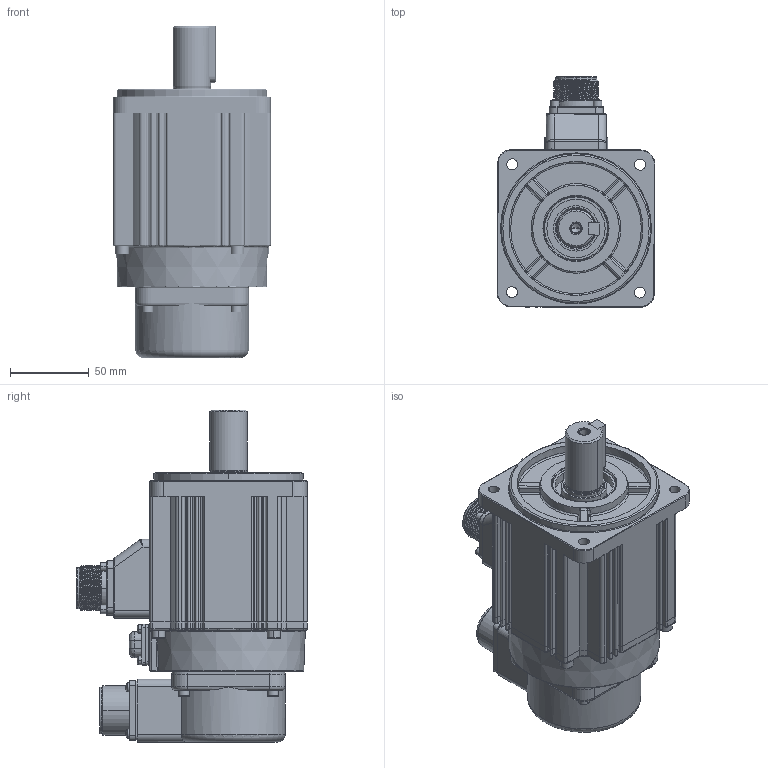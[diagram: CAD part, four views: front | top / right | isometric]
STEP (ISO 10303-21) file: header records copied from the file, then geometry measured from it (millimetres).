
FILE_DESCRIPTION((''),'2;1');
FILE_NAME('IMS20B-10M10C30C-00_ASM','2025-05-20T12:24:46',('admin'),(''),'CREO PARAMETRIC BY PTC INC, 2019080','CREO PARAMETRIC BY PTC INC, 2019080','');
FILE_SCHEMA(('CONFIG_CONTROL_DESIGN'));
Products named in the file (23): 100_JIKE_10C_L32_3_1_1; 50051-00115_1_1_1; 18-A6-18FLANGE-CUSTOM-3D_1_1_1; ISO4762-M3X30-8_8_2_1_1; 100_DZZJ_10C_ASM_5_ASM_1_ASM_1_ASM; 100_10C_ZHOU_BZ_11_1_1; 100_HDG_BZ_21_1_1; 100_ZZZJ_10C_BZ_ASM_3_ASM_1_ASM_ASM; BAOZHA_MIFENGDIAN_1_1_1; BAOZHA_CHUXIANHE_1_1_1; ISO4762-M5X16-8_8_1_1_1; M3X8-0001_1_1_1; 13000_1_1_1; 100_FHZ_1_1_1; CMS3102A20-29PE9-A-3D_1_1_1; ISO7045-M3X16-4_8_1_1_1; ISO4762-M4X16-8_8_1_1_1; 100_FHZ_ASM_1_ASM_1_ASM_1_ASM; IMS20B-10M10C30C-BZ_ASM_6_ASM_1_ASM; IMS20B-10M10C30C-00_ASM_1_ASM_1_ASM; IMS20B-10M10C30C-BAOZHA_ASM_1_ASM; C; IMS20B-10M10C30C-00_ASM
Assembly tree (37 placements, depth 6):
  IMS20B-10M10C30C-00_ASM
    IMS20B-10M10C30C-BAOZHA_ASM_1_ASM
      IMS20B-10M10C30C-00_ASM_1_ASM_1_ASM
        IMS20B-10M10C30C-BZ_ASM_6_ASM_1_ASM
          100_DZZJ_10C_ASM_5_ASM_1_ASM_1_ASM
            100_JIKE_10C_L32_3_1_1
            50051-00115_1_1_1
            18-A6-18FLANGE-CUSTOM-3D_1_1_1
            ISO4762-M3X30-8_8_2_1_1  x4
          100_ZZZJ_10C_BZ_ASM_3_ASM_1_ASM_ASM
            100_10C_ZHOU_BZ_11_1_1
            100_HDG_BZ_21_1_1
          BAOZHA_MIFENGDIAN_1_1_1
          BAOZHA_CHUXIANHE_1_1_1
          ISO4762-M5X16-8_8_1_1_1  x4
          M3X8-0001_1_1_1  x4
          13000_1_1_1
          100_FHZ_ASM_1_ASM_1_ASM_1_ASM
            100_FHZ_1_1_1
            CMS3102A20-29PE9-A-3D_1_1_1
            ISO7045-M3X16-4_8_1_1_1  x4
            ISO4762-M4X16-8_8_1_1_1  x4
    C
Bounding box: 100.24 x 146.75 x 211 mm (x, y, z)
Volume: 1340310.9 mm3; surface area: 193196.8 mm2
Topology: 31 solids, 76 shells, 4683 faces, 12736 edges, 8330 vertices
Faces by surface type: plane 2150, cylinder 1125, extrusion 812, torus 221, cone 158, bspline 138, sphere 79
Entity records: 154434 total; most frequent: CARTESIAN_POINT 48985, ORIENTED_EDGE 22940, DIRECTION 19423, EDGE_CURVE 11530, VERTEX_POINT 7613, VECTOR 7533, LINE 6721, AXIS2_PLACEMENT_3D 5945
